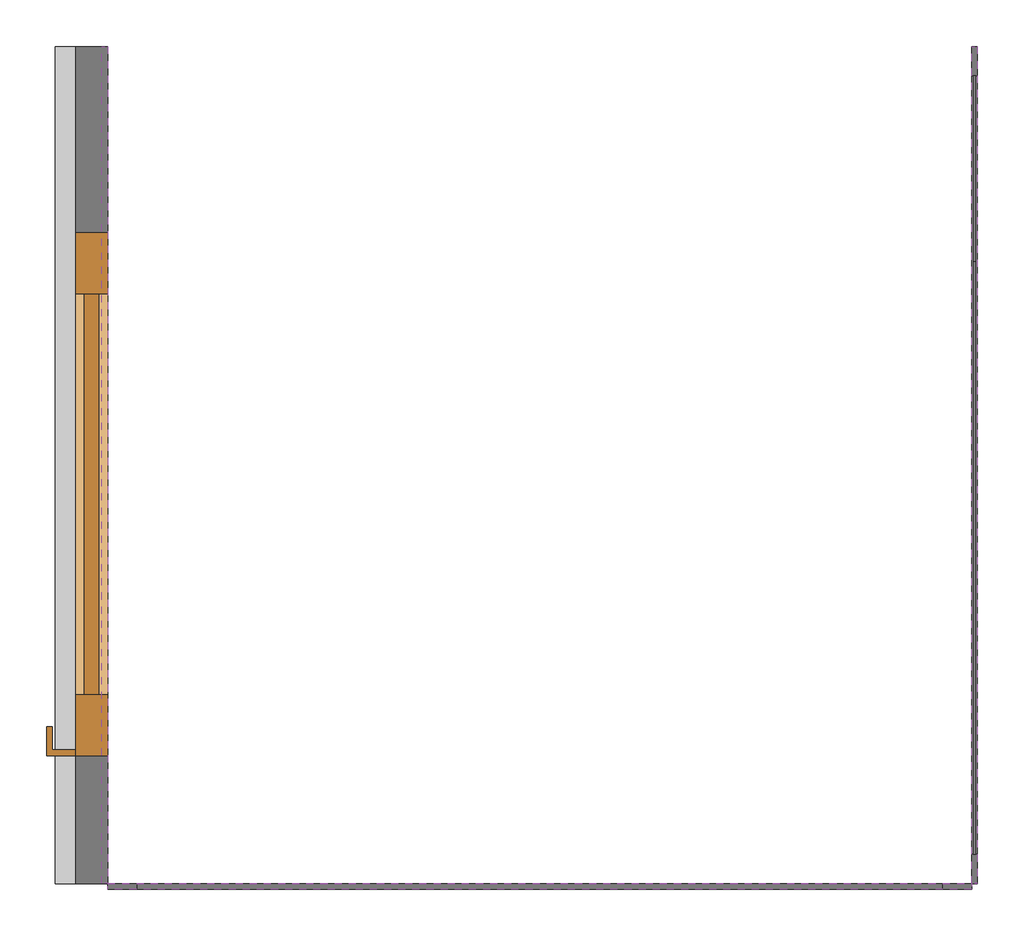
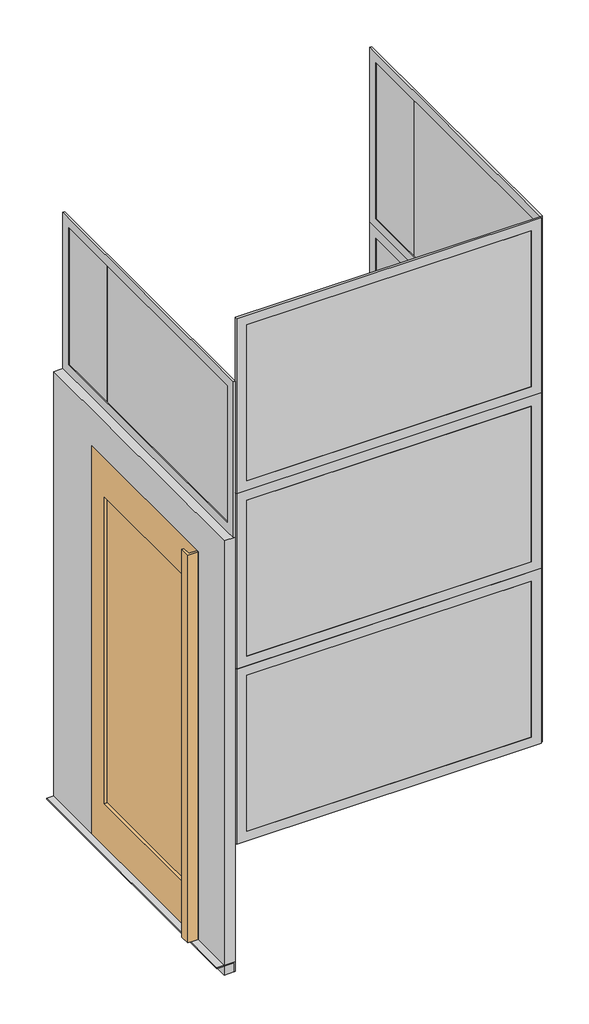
# One storey: 8 proxies, 1 door.
"""IFC4 building model written with IfcOpenShell, lengths in millimetres."""

import ifcopenshell
import ifcopenshell.guid

model = None  # the IFC model being written
_history = None  # IfcOwnerHistory: only IFC2X3 demands one
_inside = {}  # id of a spatial element -> (the spatial element, [elements in it])
_under = {}  # id of a project, library or spatial element -> (it, [spatial elements below it])
_declared = {}  # id of a project -> (the project, [libraries it declares])
_typed = {}  # id of a type object -> (the type object, [elements of that type])
_made_of = {}  # id of a material, layer set ... -> (it, [elements and type objects made of it])


def new_model(schema):
    """Start an empty IFC model of exactly this schema.

    Asked for "IFC4X3", IfcOpenShell would pick the latest addendum, in which some entities
    have other attributes; the version numbers below select the first issue.
    IFC2X3 requires an IfcOwnerHistory on every rooted entity: one is made here for all.
    """
    global model, _history
    if schema == "IFC4X3":
        model = ifcopenshell.file(schema_version=(4, 3, 0, 0))
    else:
        model = ifcopenshell.file(schema=schema)
    _inside.clear()
    _under.clear()
    _declared.clear()
    _typed.clear()
    _made_of.clear()
    _history = None
    if model.schema == "IFC2X3":
        org = make("IfcOrganization", Name="unknown")
        user = make(
            "IfcPersonAndOrganization",
            ThePerson=make("IfcPerson", FamilyName="unknown"),
            TheOrganization=org,
        )
        app = make(
            "IfcApplication",
            ApplicationDeveloper=org,
            Version="unknown",
            ApplicationFullName="unknown",
            ApplicationIdentifier="unknown",
        )
        _history = make(
            "IfcOwnerHistory",
            OwningUser=user,
            OwningApplication=app,
            ChangeAction="ADDED",
            CreationDate=0,
        )
    return model


def make(cls, **values):
    """One entity of the class cls with the attributes given. An attribute that is None is left unset."""
    return model.create_entity(
        cls, **{name: value for name, value in values.items() if value is not None}
    )


def rooted(cls, **values):
    """An entity with a GlobalId (a new one), such as an element, a storey or a relation."""
    return make(cls, GlobalId=ifcopenshell.guid.new(), OwnerHistory=_history, **values)


def si_unit(unit_type, name, prefix=None):
    """IfcSIUnit, for example si_unit("LENGTHUNIT", "METRE", prefix="MILLI")."""
    return make("IfcSIUnit", UnitType=unit_type, Prefix=prefix, Name=name)


def assignment(units):
    """IfcUnitAssignment: the units of a project."""
    return None if units is None else make("IfcUnitAssignment", Units=units)


def point(xyz):
    """IfcCartesianPoint."""
    return None if xyz is None else make("IfcCartesianPoint", Coordinates=xyz)


def direction(xyz):
    """IfcDirection."""
    return None if xyz is None else make("IfcDirection", DirectionRatios=xyz)


def frame(location, z_axis=None, x_axis=None):
    """IfcAxis2Placement3D, a coordinate frame: its origin and axes. An axis left out is left unset."""
    return make(
        "IfcAxis2Placement3D",
        Location=point(location),
        Axis=direction(z_axis),
        RefDirection=direction(x_axis),
    )


def origin():
    """The frame at (0, 0, 0) with its axes left unset."""
    return frame((0.0, 0.0, 0.0))


def place(relative_to, where):
    """IfcLocalPlacement: puts the frame where relative to a parent placement (None: the world)."""
    return make(
        "IfcLocalPlacement", PlacementRelTo=relative_to, RelativePlacement=where
    )


def context(
    kind, dimensions, precision=None, world=None, true_north=None, identifier=None
):
    """IfcGeometricRepresentationContext, for example the 3D "Model" context."""
    return make(
        "IfcGeometricRepresentationContext",
        ContextIdentifier=identifier,
        ContextType=kind,
        CoordinateSpaceDimension=dimensions,
        Precision=precision,
        WorldCoordinateSystem=world,
        TrueNorth=true_north,
    )


def project(units=None, contexts=None):
    """IfcProject with its units and contexts."""
    return rooted(
        "IfcProject",
        Name="project",
        RepresentationContexts=contexts,
        UnitsInContext=assignment(units),
    )


def spatial(cls, under=None, at=None, **own):
    """A site, building, storey or space (cls), placed at a placement, below another one or the project."""
    s = rooted(cls, ObjectPlacement=at, **own)
    if under is not None:
        _under.setdefault(under.id(), (under, []))[1].append(s)
    return s


def polyline(points):
    """IfcPolyline through the points."""
    return make("IfcPolyline", Points=[point(p) for p in points])


def outline(outer, holes=None, kind="AREA"):
    """IfcArbitraryClosedProfileDef: a profile drawn as a closed curve; with holes, ...WithVoids."""
    if holes is None:
        return make("IfcArbitraryClosedProfileDef", ProfileType=kind, OuterCurve=outer)
    return make(
        "IfcArbitraryProfileDefWithVoids",
        ProfileType=kind,
        OuterCurve=outer,
        InnerCurves=holes,
    )


def extrude(swept, where, along, depth):
    """IfcExtrudedAreaSolid: the profile swept, set in the frame where, extruded along a direction by depth."""
    return make(
        "IfcExtrudedAreaSolid",
        SweptArea=swept,
        Position=where,
        ExtrudedDirection=direction(along),
        Depth=depth,
    )


def shape(context_of_items, identifier, shape_type, items):
    """IfcShapeRepresentation: the items that make up one representation, for example the "Body"."""
    return make(
        "IfcShapeRepresentation",
        ContextOfItems=context_of_items,
        RepresentationIdentifier=identifier,
        RepresentationType=shape_type,
        Items=items,
    )


def source(mapping_origin, context_of_items, identifier, shape_type, items):
    """IfcRepresentationMap: a shape defined once, which mapped items show again and again."""
    return make(
        "IfcRepresentationMap",
        MappingOrigin=mapping_origin,
        MappedRepresentation=shape(context_of_items, identifier, shape_type, items),
    )


def transform(
    local_origin,
    x_axis=None,
    y_axis=None,
    z_axis=None,
    scale=None,
    scale2=None,
    scale3=None,
    uniform=True,
):
    """IfcCartesianTransformationOperator3D, or its non-uniform kind. x_axis, y_axis, z_axis: its Axis1, 2, 3."""
    if uniform:
        return make(
            "IfcCartesianTransformationOperator3D",
            Axis1=direction(x_axis),
            Axis2=direction(y_axis),
            LocalOrigin=point(local_origin),
            Scale=scale,
            Axis3=direction(z_axis),
        )
    return make(
        "IfcCartesianTransformationOperator3DnonUniform",
        Axis1=direction(x_axis),
        Axis2=direction(y_axis),
        LocalOrigin=point(local_origin),
        Scale=scale,
        Axis3=direction(z_axis),
        Scale2=scale2,
        Scale3=scale3,
    )


def mapped(mapping_source, mapping_target):
    """IfcMappedItem: shows the shape of a source again, moved by a transform."""
    return make(
        "IfcMappedItem", MappingSource=mapping_source, MappingTarget=mapping_target
    )


def made_of(thing, what):
    """Note that an element or type object is made of a material, layer set ...; save() writes the relation."""
    if what is not None:
        _made_of.setdefault(what.id(), (what, []))[1].append(thing)
    return thing


def element(
    cls,
    number,
    at=None,
    inside=None,
    cuts=None,
    type_object=None,
    material=None,
    context=None,
    identifier="Body",
    shape_type=None,
    held_by="IfcProductDefinitionShape",
    body=None,
    shapes=None,
    **own,
):
    """One element of the class cls, such as IfcWall. Its Tag is "e" and its number.

    at: its placement. inside: the storey or other place that contains it. cuts: it is an
    opening in that element (IfcRelVoidsElement). A single representation is given by context,
    identifier, shape_type and body (its items); several are given by shapes. held_by: the class
    of the entity that holds the representations. save() writes the other relations.
    """
    e = rooted(cls, Tag="e%d" % number, ObjectPlacement=at, **own)
    if body is not None:
        shapes = [shape(context, identifier, shape_type, body)]
    if shapes is not None:
        e.Representation = make(held_by, Representations=shapes)
    if inside is not None:
        _inside.setdefault(inside.id(), (inside, []))[1].append(e)
    if cuts is not None:
        rooted(
            "IfcRelVoidsElement", RelatingBuildingElement=cuts, RelatedOpeningElement=e
        )
    if type_object is not None:
        _typed.setdefault(type_object.id(), (type_object, []))[1].append(e)
    return made_of(e, material)


def aggregate(whole, parts):
    """IfcRelAggregates: a whole, such as a stair, and the parts it consists of."""
    return rooted("IfcRelAggregates", RelatingObject=whole, RelatedObjects=parts)


def save(model, path):
    """Write the relations noted so far, then the file.

    IfcRelAggregates (storeys below a building ...), IfcRelContainedInSpatialStructure (elements
    in a storey), IfcRelDefinesByType, IfcRelAssociatesMaterial and IfcRelDeclares: one each for
    every whole, place, type object, material and project.
    """
    for whole, parts in _under.values():
        aggregate(whole, parts)
    for where, things in _inside.values():
        rooted(
            "IfcRelContainedInSpatialStructure",
            RelatedElements=things,
            RelatingStructure=where,
        )
    for kind, things in _typed.values():
        rooted("IfcRelDefinesByType", RelatedObjects=things, RelatingType=kind)
    for what, things in _made_of.values():
        rooted("IfcRelAssociatesMaterial", RelatedObjects=things, RelatingMaterial=what)
    for by, libraries in _declared.values():
        rooted("IfcRelDeclares", RelatingContext=by, RelatedDefinitions=libraries)
    model.write(path)


def a_side_glass_panel_flexible_height_8747b029(model_context):
    return source(origin(), model_context, "Body", "SweptSolid", [
        extrude(outline(polyline([(1390.0, 13.0), (370.0, 13.0), (370.0, 17.0), (1390.0, 17.0), (1390.0, 13.0)])), frame((0.0, 0.0, 50.0), z_axis=(0.0, 0.0, 1.0), x_axis=(1.0, 0.0, 0.0)), (0.0, 0.0, 1.0), 804.0),
        extrude(outline(polyline([(370.0, 13.0), (50.0, 13.0), (50.0, 17.0), (370.0, 17.0), (370.0, 13.0)])), frame((0.0, 0.0, 50.0), z_axis=(0.0, 0.0, 1.0), x_axis=(1.0, 0.0, 0.0)), (0.0, 0.0, 1.0), 804.0),
        extrude(outline(polyline([(904.0, 0.0), (0.0, 0.0), (0.0, 1440.0), (904.0, 1440.0), (904.0, 0.0)]), holes=[polyline([(854.0, 50.0), (854.0, 1390.0), (50.0, 1390.0), (50.0, 50.0), (854.0, 50.0)])]), frame((0.0, 10.0, 0.0), z_axis=(0.0, 1.0, 0.0), x_axis=(0.0, 0.0, 1.0)), (0.0, 0.0, 1.0), 10.0),
    ])


def b_side_glass_panel_flexible_height_and_width_ffa260e1(model_context):
    return source(origin(), model_context, "Body", "SweptSolid", [
        extrude(outline(polyline([(904.0, 1487.0), (904.0, 0.0), (0.0, 0.0), (0.0, 1487.0), (904.0, 1487.0)]), holes=[polyline([(854.0, 50.0), (854.0, 1437.0), (50.0, 1437.0), (50.0, 50.0), (854.0, 50.0)])]), frame((0.0, -10.0, 0.0), z_axis=(0.0, 1.0, 0.0), x_axis=(0.0, 0.0, 1.0)), (0.0, 0.0, 1.0), 10.0),
        extrude(outline(polyline([(1437.0, -10.0), (50.0, -10.0), (50.0, 0.0), (1437.0, 0.0), (1437.0, -10.0)])), frame((0.0, 0.0, 50.0), z_axis=(0.0, 0.0, 1.0), x_axis=(1.0, 0.0, 0.0)), (0.0, 0.0, 1.0), 804.0),
    ])


def c_side_door_aluminium_1100_x_1467_left_hinged_ad710f9b(model_context):
    return source(origin(), model_context, "Body", "SweptSolid", [
        extrude(outline(polyline([(0.0, 0.0), (-5.0, 0.0), (-5.0, 45.0), (-90.0, 45.0), (-90.0, 50.0), (0.0, 50.0), (0.0, 0.0)])), frame((0.0, 0.0, 0.0), z_axis=(1.0, 0.0, 0.0), x_axis=(0.0, 1.0, 0.0)), (0.0, 0.0, 1.0), 1440.0),
        extrude(outline(polyline([(2240.0, 0.0), (0.0, 0.0), (0.0, 1440.0), (2240.0, 1440.0), (2240.0, 0.0)]), holes=[polyline([(2050.0, 320.0), (2050.0, 1220.0), (50.0, 1220.0), (50.0, 320.0), (2050.0, 320.0)])]), frame((0.0, -55.0, 0.0), z_axis=(0.0, 1.0, 0.0), x_axis=(0.0, 0.0, 1.0)), (0.0, 0.0, 1.0), 55.0),
    ])


def c_side_glass_panel_flexible_height_and_width_e43f4e54(model_context):
    return source(origin(), model_context, "Body", "SweptSolid", [
        extrude(outline(polyline([(1390.0, 13.0), (370.0, 13.0), (370.0, 17.0), (1390.0, 17.0), (1390.0, 13.0)])), frame((0.0, 0.0, 50.0), z_axis=(0.0, 0.0, 1.0), x_axis=(1.0, 0.0, 0.0)), (0.0, 0.0, 1.0), 705.0),
        extrude(outline(polyline([(370.0, 13.0), (50.0, 13.0), (50.0, 17.0), (370.0, 17.0), (370.0, 13.0)])), frame((0.0, 0.0, 50.0), z_axis=(0.0, 0.0, 1.0), x_axis=(1.0, 0.0, 0.0)), (0.0, 0.0, 1.0), 705.0),
        extrude(outline(polyline([(805.0, 0.0), (0.0, 0.0), (0.0, 1440.0), (805.0, 1440.0), (805.0, 0.0)]), holes=[polyline([(755.0, 50.0), (755.0, 1390.0), (50.0, 1390.0), (50.0, 50.0), (755.0, 50.0)])]), frame((0.0, 10.0, 0.0), z_axis=(0.0, 1.0, 0.0), x_axis=(0.0, 0.0, 1.0)), (0.0, 0.0, 1.0), 10.0),
    ])


def aluminium_door_single_glass_left_hinged_bedaa4f7(model_context):
    return source(origin(), model_context, "Body", "SweptSolid", [
        extrude(outline(polyline([(2050.0, 1013.0), (2050.0, 113.0), (50.0, 113.0), (50.0, 1013.0), (2050.0, 1013.0)]), holes=[polyline([(1850.0, 908.0), (269.0, 908.0), (269.0, 218.0), (1850.0, 218.0), (1850.0, 908.0)])]), frame((0.0, -55.0, 0.0), z_axis=(0.0, 1.0, 0.0), x_axis=(0.0, 0.0, 1.0)), (0.0, 0.0, 1.0), 55.0),
        extrude(outline(polyline([(1013.0, -105.0), (963.0, -105.0), (963.0, -95.0), (1003.0, -95.0), (1003.0, -55.0), (1013.0, -55.0), (1013.0, -105.0)])), frame((0.0, 0.0, 50.0), z_axis=(0.0, 0.0, 1.0), x_axis=(1.0, 0.0, 0.0)), (0.0, 0.0, 1.0), 2000.0),
        extrude(outline(polyline([(218.0, -15.0), (908.0, -15.0), (908.0, -40.0), (218.0, -40.0), (218.0, -15.0)])), frame((0.0, 0.0, 269.0), z_axis=(0.0, 0.0, 1.0), x_axis=(1.0, 0.0, 0.0)), (0.0, 0.0, 1.0), 1581.0),
    ])


model = new_model("IFC4")

# Units and contexts
model_context = context("Model", 3, world=origin())
ifc_project = project(units=[si_unit("LENGTHUNIT", "METRE", prefix="MILLI")], contexts=[model_context])

# Site, building, storey
site = spatial("IfcSite", under=ifc_project)
building = spatial("IfcBuilding", under=site)
storey = spatial("IfcBuildingStorey", under=building, Name="Cibes - plan 1", Elevation=2991.0118165)

# Proxies
placement = place(None, origin())
a_side_glass_panel_flexible_height_shape = a_side_glass_panel_flexible_height_8747b029(model_context)
element("IfcBuildingElementProxy", 1, Name="A-side_Glass Panel : Flexible Height", ObjectType="A-side_Glass Panel : Flexible Height", at=placement, inside=storey, context=model_context, shape_type="MappedRepresentation", body=[
    mapped(a_side_glass_panel_flexible_height_shape, transform((24984.9520027, 30099.6913541, 3607.0118194), x_axis=(0.0, -1.0000000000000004, 0.0), y_axis=(1.0000000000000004, 0.0, 0.0), z_axis=(0.0, 0.0, 1.0))),
])
element("IfcBuildingElementProxy", 2, Name="A-side_Glass Panel : Flexible Height", ObjectType="A-side_Glass Panel : Flexible Height", at=placement, inside=storey, context=model_context, shape_type="MappedRepresentation", body=[
    mapped(a_side_glass_panel_flexible_height_shape, transform((24984.9520027, 30099.6913541, 4511.0118194), x_axis=(0.0, -1.0000000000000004, 0.0), y_axis=(1.0000000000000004, 0.0, 0.0), z_axis=(0.0, 0.0, 1.0))),
])
element("IfcBuildingElementProxy", 3, Name="A-side_Glass Panel : Flexible Height", ObjectType="A-side_Glass Panel : Flexible Height", at=placement, inside=storey, context=model_context, shape_type="MappedRepresentation", body=[
    mapped(a_side_glass_panel_flexible_height_shape, transform((24984.9520027, 30099.6913541, 5415.0118194), x_axis=(0.0, -1.0000000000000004, 0.0), y_axis=(1.0000000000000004, 0.0, 0.0), z_axis=(0.0, 0.0, 1.0))),
])
b_side_glass_panel_flexible_height_and_width_shape = b_side_glass_panel_flexible_height_and_width_ffa260e1(model_context)
element("IfcBuildingElementProxy", 4, Name="B-side_Glass Panel : Flexible Height and Width", ObjectType="B-side_Glass Panel : Flexible Height and Width", at=placement, inside=storey, context=model_context, shape_type="MappedRepresentation", body=[
    mapped(b_side_glass_panel_flexible_height_and_width_shape, transform((23507.9520026, 28659.6913539, 3607.0118194), x_axis=(1.0, 0.0, 0.0), y_axis=(0.0, 1.0, 0.0), z_axis=(0.0, 0.0, 1.0))),
])
element("IfcBuildingElementProxy", 5, Name="B-side_Glass Panel : Flexible Height and Width", ObjectType="B-side_Glass Panel : Flexible Height and Width", at=placement, inside=storey, context=model_context, shape_type="MappedRepresentation", body=[
    mapped(b_side_glass_panel_flexible_height_and_width_shape, transform((23507.9520026, 28659.6913539, 4511.0118194), x_axis=(1.0, 0.0, 0.0), y_axis=(0.0, 1.0, 0.0), z_axis=(0.0, 0.0, 1.0))),
])
element("IfcBuildingElementProxy", 6, Name="B-side_Glass Panel : Flexible Height and Width", ObjectType="B-side_Glass Panel : Flexible Height and Width", at=placement, inside=storey, context=model_context, shape_type="MappedRepresentation", body=[
    mapped(b_side_glass_panel_flexible_height_and_width_shape, transform((23507.9519947, 28659.6913539, 5415.0118194), x_axis=(1.0, 0.0, 0.0), y_axis=(0.0, 1.0, 0.0), z_axis=(0.0, 0.0, 1.0))),
])
c_side_door_aluminium_1100_x_1467_left_hinged_shape = c_side_door_aluminium_1100_x_1467_left_hinged_ad710f9b(model_context)
element("IfcBuildingElementProxy", 7, Name="C-side_Door_aluminium : 1100 x 1467 - Left hinged", ObjectType="C-side_Door_aluminium : 1100 x 1467 - Left hinged", at=placement, inside=storey, context=model_context, shape_type="MappedRepresentation", body=[
    mapped(c_side_door_aluminium_1100_x_1467_left_hinged_shape, transform((23507.9520026, 30099.6913539, 2946.0118165), x_axis=(0.0, -1.0, 0.0), y_axis=(1.0, 0.0, 0.0), z_axis=(0.0, 0.0, 1.0))),
])
c_side_glass_panel_flexible_height_and_width_shape = c_side_glass_panel_flexible_height_and_width_e43f4e54(model_context)
element("IfcBuildingElementProxy", 8, Name="C-side_Glass Panel : Flexible Height and Width", ObjectType="C-side_Glass Panel : Flexible Height and Width", at=placement, inside=storey, context=model_context, shape_type="MappedRepresentation", body=[
    mapped(c_side_glass_panel_flexible_height_and_width_shape, transform((23487.9520026, 30099.6913452, 5186.0118165), x_axis=(0.0, -1.0000000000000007, 0.0), y_axis=(1.0000000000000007, 0.0, 0.0), z_axis=(0.0, 0.0, 1.0))),
])

# Door
aluminium_door_single_glass_left_hinged_shape = aluminium_door_single_glass_left_hinged_bedaa4f7(model_context)
element("IfcDoor", 9, ObjectType="Aluminium Door_single_glass : Left hinged", at=placement, inside=storey, context=model_context, shape_type="MappedRepresentation", body=[
    mapped(aluminium_door_single_glass_left_hinged_shape, transform((23507.9520026, 29892.6913539, 2946.0118165), x_axis=(0.0, -1.0, 0.0), y_axis=(1.0, 0.0, 0.0), z_axis=(0.0, 0.0, 1.0))),
])

save(model, "model.ifc")
